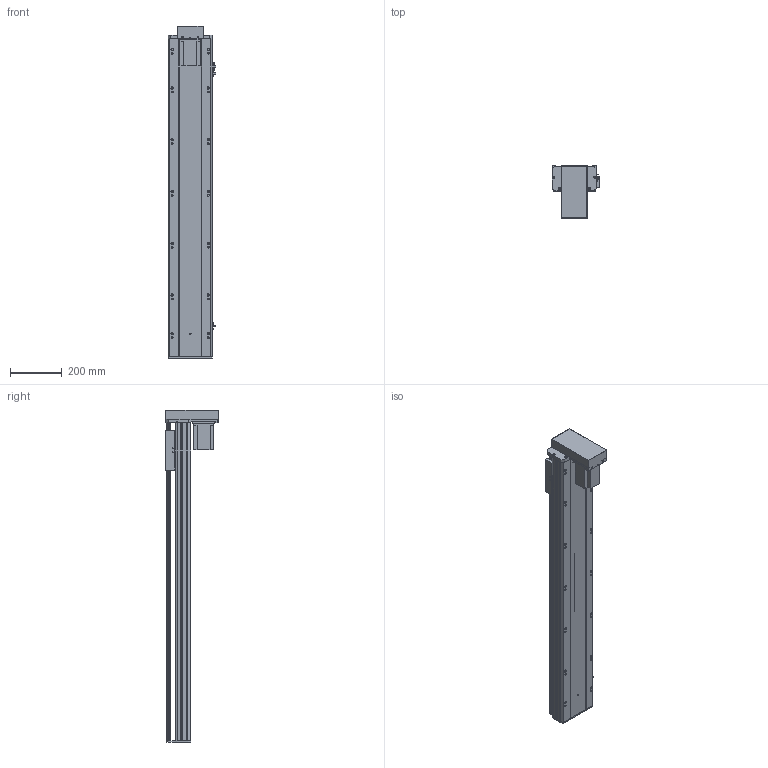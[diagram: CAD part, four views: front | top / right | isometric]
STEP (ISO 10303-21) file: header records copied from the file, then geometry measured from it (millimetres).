
FILE_DESCRIPTION (( 'STEP AP203' ), '1' );
FILE_NAME ('Y170-D10-S1000-BM-P750W.STEP', '2020-01-22T03:17:33', ( '微软用户' ), ( '微软中国' ), 'SwSTEP 2.0', 'SolidWorks 2017', '' );
FILE_SCHEMA (( 'CONFIG_CONTROL_DESIGN' ));
Length unit declared in the file: millimetre
Products named in the file (12): Y170-陔遴奻裔-BR; 170-BM耜蚾蟀諉啣; Y170-BM--P750W楊擘啣; -BM俋袗; Y170耜裔--準---; YD-Y100-135-新外置传感挡片(通用）; 170--掛极-BR; Y100-135俋离換覜ん; 侂狟750W; Y170-D10-S1000-BM-P750W; EGH20賑輸_蕼偞; Y雄赽釱-耜蚾
Assembly tree (14 placements, depth 2):
  Y170-D10-S1000-BM-P750W
    Y170耜裔--準---
    170--掛极-BR
    侂狟750W
    EGH20賑輸_蕼偞  x2
    Y雄赽釱-耜蚾
    Y170-陔遴奻裔-BR
    170-BM耜蚾蟀諉啣
    Y170-BM--P750W楊擘啣
    -BM俋袗
    YD-Y100-135-新外置传感挡片(通用）
    Y100-135俋离換覜ん  x3
Bounding box: 183.5 x 203.5 x 1283.5 mm (x, y, z)
Volume: 6056995.9 mm3; surface area: 2086711.4 mm2
Topology: 14 solids, 14 shells, 918 faces, 2604 edges, 1718 vertices
Faces by surface type: cylinder 466, plane 436, cone 16
Entity records: 29226 total; most frequent: CARTESIAN_POINT 5223, DIRECTION 4824, ORIENTED_EDGE 4704, EDGE_CURVE 2352, AXIS2_PLACEMENT_3D 1715, VERTEX_POINT 1562, VECTOR 1394, LINE 1394
